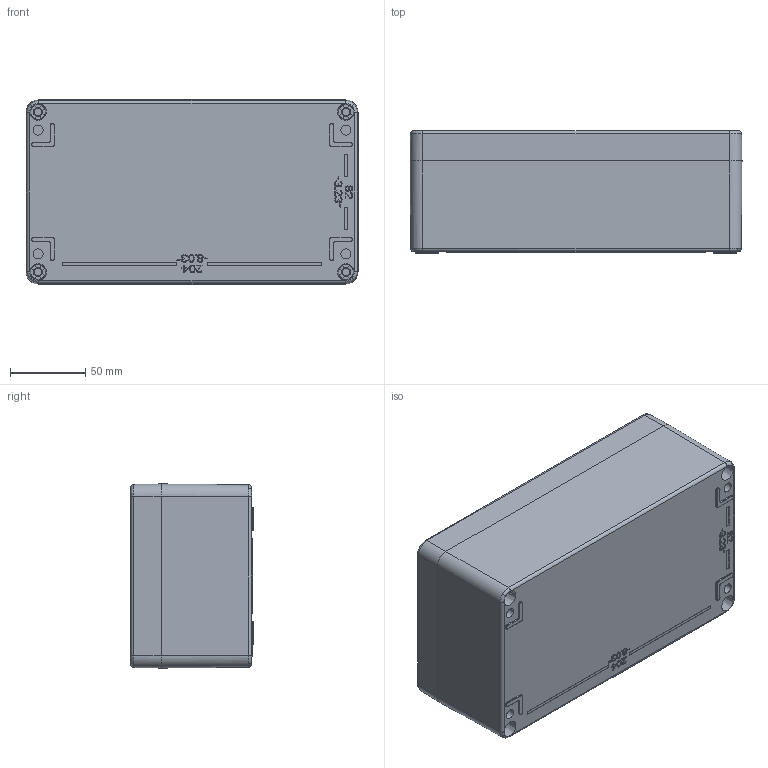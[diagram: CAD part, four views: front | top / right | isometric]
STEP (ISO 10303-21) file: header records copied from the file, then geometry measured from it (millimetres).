
FILE_DESCRIPTION((''),'2;1');
FILE_NAME('1230950000_ASM','2024-02-19T10:21:06',('Stephanie.Hoppe'),(''),'CREO PARAMETRIC BY PTC INC, 2022124','CREO PARAMETRIC BY PTC INC, 2022124','');
FILE_SCHEMA(('AUTOMOTIVE_DESIGN { 1 0 10303 214 1 1 1 1 }'));
Products named in the file (11): 9301035000_AF0; 9261018000; 9601341000_ASM; 9601599000_ASM; 9302010000_AF0; 9261116000; 9611139000_ASM; 9611317000_DICHTUNG; 9611353000_ASM; 9261021000; 1230950000_ASM
Assembly tree (16 placements, depth 4):
  1230950000_ASM
    9601599000_ASM
      9601341000_ASM
        9301035000_AF0
        9261018000  x4
    9611353000_ASM
      9611139000_ASM
        9302010000_AF0
        9261116000
      9611317000_DICHTUNG
    9261021000  x4
Bounding box: 220 x 81 x 122 mm (x, y, z)
Volume: 505763.3 mm3; surface area: 246918 mm2
Topology: 18 solids, 38 shells, 2140 faces, 6019 edges, 4009 vertices
Faces by surface type: plane 1247, cylinder 469, cone 228, bspline 160, torus 35, sphere 1
Entity records: 108608 total; most frequent: CARTESIAN_POINT 29677, ORIENTED_EDGE 9070, DIRECTION 8998, PRESENTATION_STYLE_ASSIGNMENT 6702, STYLED_ITEM 6697, CURVE_STYLE 5255, EDGE_CURVE 4551, VECTOR 3337
